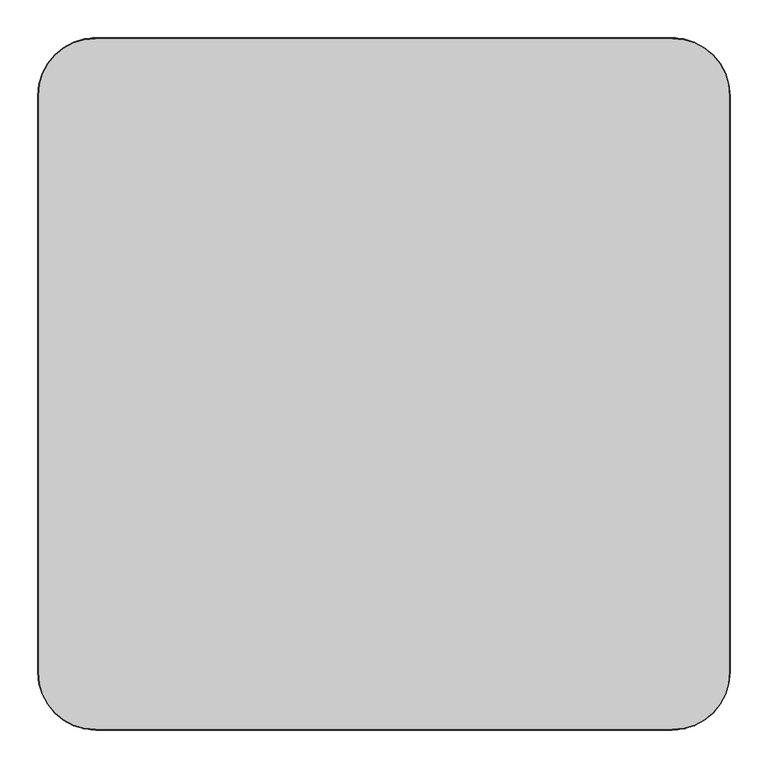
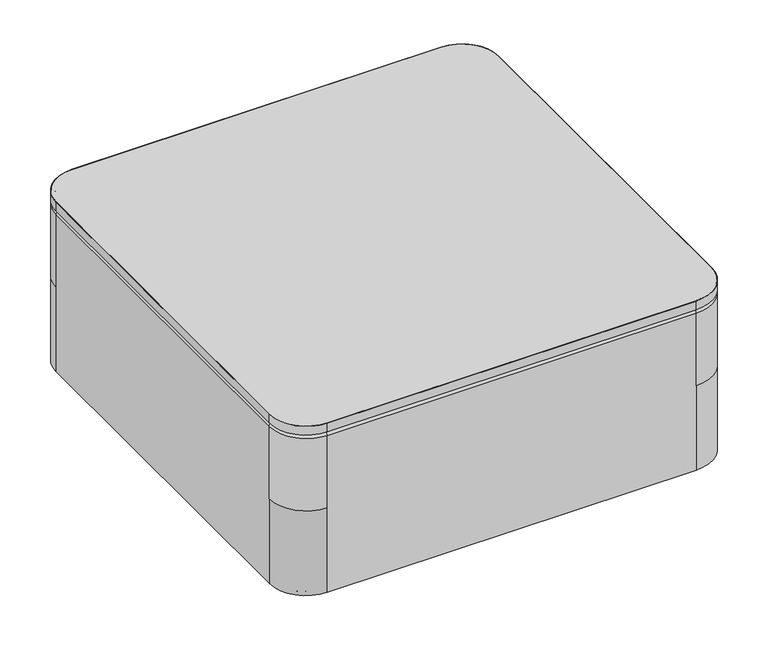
"""IFC4 building model written with IfcOpenShell, lengths in millimetres: furniture geometry, Indiana-Otty-Ottoman_Square_Table : 840-3615SOT."""

from ifc_helpers import new_model, si_unit, point, frame, frame_2d, origin, place, context, project, spatial, polyline, circle_curve, ellipse_curve, trimmed, segment, composite_curve, outline, extrude, source, transform, mapped, element, save
from ifc_brep_helpers import plane_surface, cylinder_surface, revolved_surface, advanced_brep


def furniture_1430fbfa(model_context):
    return source(origin(), model_context, "Body", "SolidModel", [
        extrude(outline(composite_curve([segment(trimmed(circle_curve(frame_2d((381.0, 381.0)), 75.2078125), [point((381.0, 456.2078125))], [point((456.2078125, 381.0))], False, "CARTESIAN"), True, "CONTINUOUS"), segment(polyline([(456.2078125, 381.0), (456.2078125, -381.0)]), True, "CONTINUOUS"), segment(trimmed(circle_curve(frame_2d((381.0, -381.0)), 75.2078125), [point((456.2078125, -381.0))], [point((381.0, -456.2078125))], False, "CARTESIAN"), True, "CONTINUOUS"), segment(polyline([(381.0, -456.2078125), (-381.0, -456.2078125)]), True, "CONTINUOUS"), segment(trimmed(circle_curve(frame_2d((-381.0, -381.0)), 75.2078125), [point((-381.0, -456.2078125))], [point((-456.2078125, -381.0))], False, "CARTESIAN"), True, "CONTINUOUS"), segment(polyline([(-456.2078125, -381.0), (-456.2078125, 381.0)]), True, "CONTINUOUS"), segment(trimmed(circle_curve(frame_2d((-381.0, 381.0)), 75.2078125), [point((-456.2078125, 381.0))], [point((-381.0, 456.2078125))], False, "CARTESIAN"), True, "CONTINUOUS"), segment(polyline([(-381.0, 456.2078125), (381.0, 456.2078125)]), True, "CONTINUOUS")], self_intersect=False)), frame((0.0, 0.0, 361.95), z_axis=(0.0, 0.0, 1.0), x_axis=(1.0, 0.0, 0.0)), (0.0, 0.0, 1.0), 19.05),
        extrude(outline(composite_curve([segment(polyline([(-457.2, -381.0), (-457.2, 381.0)]), True, "CONTINUOUS"), segment(trimmed(circle_curve(frame_2d((-381.0, 381.0)), 76.2), [point((-457.2, 381.0))], [point((-381.0, 457.2))], False, "CARTESIAN"), True, "CONTINUOUS"), segment(polyline([(-381.0, 457.2), (381.0, 457.2)]), True, "CONTINUOUS"), segment(trimmed(circle_curve(frame_2d((381.0, 381.0)), 76.2), [point((381.0, 457.2))], [point((457.2, 381.0))], False, "CARTESIAN"), True, "CONTINUOUS"), segment(polyline([(457.2, 381.0), (457.2, -381.0)]), True, "CONTINUOUS"), segment(trimmed(circle_curve(frame_2d((381.0, -381.0)), 76.2), [point((457.2, -381.0))], [point((381.0, -457.2))], False, "CARTESIAN"), True, "CONTINUOUS"), segment(polyline([(381.0, -457.2), (-381.0, -457.2)]), True, "CONTINUOUS"), segment(trimmed(circle_curve(frame_2d((-381.0, -381.0)), 76.2), [point((-381.0, -457.2))], [point((-457.2, -381.0))], False, "CARTESIAN"), True, "CONTINUOUS")], self_intersect=False), holes=[composite_curve([segment(polyline([(381.0, 456.2078125), (-381.0, 456.2078125)]), True, "CONTINUOUS"), segment(trimmed(circle_curve(frame_2d((-381.0, 381.0)), 75.2078125), [point((-381.0, 456.2078125))], [point((-456.2078125, 381.0))], True, "CARTESIAN"), True, "CONTINUOUS"), segment(polyline([(-456.2078125, 381.0), (-456.2078125, -381.0)]), True, "CONTINUOUS"), segment(trimmed(circle_curve(frame_2d((-381.0, -381.0)), 75.2078125), [point((-456.2078125, -381.0))], [point((-381.0, -456.2078125))], True, "CARTESIAN"), True, "CONTINUOUS"), segment(polyline([(-381.0, -456.2078125), (381.0, -456.2078125)]), True, "CONTINUOUS"), segment(trimmed(circle_curve(frame_2d((381.0, -381.0)), 75.2078125), [point((381.0, -456.2078125))], [point((456.2078125, -381.0))], True, "CARTESIAN"), True, "CONTINUOUS"), segment(polyline([(456.2078125, -381.0), (456.2078125, 381.0)]), True, "CONTINUOUS"), segment(trimmed(circle_curve(frame_2d((381.0, 381.0)), 75.2078125), [point((456.2078125, 381.0))], [point((381.0, 456.2078125))], True, "CARTESIAN"), True, "CONTINUOUS")], self_intersect=False)]), frame((0.0, 0.0, 361.95), z_axis=(0.0, 0.0, 1.0), x_axis=(1.0, 0.0, 0.0)), (0.0, 0.0, 1.0), 19.05),
        advanced_brep(
        [(0.0, -403.225, 19.8875), (0.0, -425.725, 19.8875), (0.0, -380.725, 19.8875), (0.0, -425.2765082, 4.2458827), (0.0, -381.1734918, 4.2458827), (0.0, -420.7913665, -0.1125), (0.0, -385.6586335, -0.1125), (0.0, -413.4926178, -0.1125), (0.0, -392.9573822, -0.1125), (0.0, -409.5981417, 3.9179615), (0.0, -396.8518583, 3.9179615), (0.0, -403.225, 3.9179615)],
        [
            (0, 1),
            (1, 2, circle_curve(frame((0.0, -403.225, 19.8875), z_axis=(0.0, 0.0, 1.0), x_axis=(0.0, -1.0, 0.0)), 22.5)),
            (2, 0),
            (2, 1, circle_curve(frame((0.0, -403.225, 19.8875), z_axis=(0.0, 0.0, 1.0), x_axis=(0.0, -1.0, 0.0)), 22.5)),
            (1, 3),
            (3, 4, circle_curve(frame((0.0, -403.225, 4.2458827), z_axis=(0.0, 0.0, 1.0), x_axis=(0.0, -1.0, 0.0)), 22.0515082)),
            (4, 2),
            (4, 3, circle_curve(frame((0.0, -403.225, 4.2458827), z_axis=(0.0, 0.0, 1.0), x_axis=(0.0, -1.0, 0.0)), 22.0515082)),
            (3, 5, circle_curve(frame((0.0, -420.7913665, 4.3744851), z_axis=(1.0, 0.0, 0.0), x_axis=(0.0, 1.0, 0.0)), 4.4869851)),
            (5, 6, circle_curve(frame((0.0, -403.225, -0.1125), z_axis=(0.0, 0.0, 1.0), x_axis=(0.0, -1.0, 0.0)), 17.5663665)),
            (6, 4, circle_curve(frame((0.0, -385.6586335, 4.3744851), z_axis=(1.0, 0.0, 0.0), x_axis=(0.0, -1.0, 0.0)), 4.4869851)),
            (6, 5, circle_curve(frame((0.0, -403.225, -0.1125), z_axis=(0.0, 0.0, 1.0), x_axis=(0.0, -1.0, 0.0)), 17.5663665)),
            (5, 7),
            (7, 8, circle_curve(frame((0.0, -403.225, -0.1125), z_axis=(0.0, 0.0, 1.0), x_axis=(0.0, -1.0, 0.0)), 10.2676178)),
            (8, 6),
            (8, 7, circle_curve(frame((0.0, -403.225, -0.1125), z_axis=(0.0, 0.0, 1.0), x_axis=(0.0, -1.0, 0.0)), 10.2676178)),
            (7, 9, circle_curve(frame((0.0, -413.4926178, 3.7842702), z_axis=(1.0, 0.0, 0.0), x_axis=(0.0, 1.0, 0.0)), 3.8967702)),
            (9, 10, circle_curve(frame((0.0, -403.225, 3.9179615), z_axis=(0.0, 0.0, 1.0), x_axis=(0.0, -1.0, 0.0)), 6.3731417)),
            (10, 8, circle_curve(frame((0.0, -392.9573822, 3.7842702), z_axis=(1.0, 0.0, 0.0), x_axis=(0.0, -1.0, 0.0)), 3.8967702)),
            (10, 9, circle_curve(frame((0.0, -403.225, 3.9179615), z_axis=(0.0, 0.0, 1.0), x_axis=(0.0, -1.0, 0.0)), 6.3731417)),
            (9, 11),
            (11, 10),
        ],
        [
            plane_surface(frame((0.0, -403.225, 19.8875), z_axis=(0.0, 0.0, 1.0), x_axis=(0.0, -1.0, 0.0))),
            revolved_surface(polyline([(0.0, -425.2765082, 4.2458827), (0.0, -425.725, 19.8875)]), (0.0, -403.225, 31.0803862), (0.0, 0.0, 1.0)),
            revolved_surface(trimmed(ellipse_curve(frame((0.0, -420.7913665, 4.3744851), z_axis=(-1.0, 0.0, 0.0), x_axis=(0.0, 1.0, 0.0)), 4.4869851, 4.4869851), [point((0.0, -420.7913665, -0.1125))], [point((0.0, -425.2765082, 4.2458827))], True, "CARTESIAN"), (0.0, -403.225, 31.0803862), (0.0, 0.0, 1.0)),
            plane_surface(frame((0.0, -403.225, -0.1125), z_axis=(0.0, 0.0, -1.0), x_axis=(0.0, -1.0, 0.0))),
            revolved_surface(trimmed(ellipse_curve(frame((0.0, -413.4926178, 3.7842702), z_axis=(-1.0, 0.0, 0.0), x_axis=(0.0, 1.0, 0.0)), 3.8967702, 3.8967702), [point((0.0, -409.5981417, 3.9179615))], [point((0.0, -413.4926178, -0.1125))], True, "CARTESIAN"), (0.0, -403.225, 31.0803862), (0.0, 0.0, 1.0)),
            plane_surface(frame((0.0, -403.225, 3.9179615), z_axis=(0.0, 0.0, -1.0), x_axis=(0.0, -1.0, 0.0))),
        ],
        [
            (0, [[1, 2, 3]]),
            (0, [[-3, 4, -1]]),
            (1, [[-2, 5, 6, 7]]),
            (1, [[-4, -7, 8, -5]]),
            (2, [[-6, 9, 10, 11]]),
            (2, [[-8, -11, 12, -9]]),
            (3, [[-10, 13, 14, 15]]),
            (3, [[-12, -15, 16, -13]]),
            (4, [[-14, 17, 18, 19]]),
            (4, [[-16, -19, 20, -17]]),
            (5, [[-18, 21, 22]]),
            (5, [[-20, -22, -21]]),
        ],
    ),
        advanced_brep(
        [(0.0, 403.225, 19.8875), (0.0, 380.725, 19.8875), (0.0, 425.725, 19.8875), (0.0, 381.1734918, 4.2458827), (0.0, 425.2765082, 4.2458827), (0.0, 385.6586335, -0.1125), (0.0, 420.7913665, -0.1125), (0.0, 392.9573822, -0.1125), (0.0, 413.4926178, -0.1125), (0.0, 396.8518583, 3.9179615), (0.0, 409.5981417, 3.9179615), (0.0, 403.225, 3.9179615)],
        [
            (0, 1),
            (1, 2, circle_curve(frame((0.0, 403.225, 19.8875), z_axis=(0.0, 0.0, 1.0), x_axis=(0.0, -1.0, 0.0)), 22.5)),
            (2, 0),
            (2, 1, circle_curve(frame((0.0, 403.225, 19.8875), z_axis=(0.0, 0.0, 1.0), x_axis=(0.0, -1.0, 0.0)), 22.5)),
            (1, 3),
            (3, 4, circle_curve(frame((0.0, 403.225, 4.2458827), z_axis=(0.0, 0.0, 1.0), x_axis=(0.0, -1.0, 0.0)), 22.0515082)),
            (4, 2),
            (4, 3, circle_curve(frame((0.0, 403.225, 4.2458827), z_axis=(0.0, 0.0, 1.0), x_axis=(0.0, -1.0, 0.0)), 22.0515082)),
            (3, 5, circle_curve(frame((0.0, 385.6586335, 4.3744851), z_axis=(1.0, 0.0, 0.0), x_axis=(0.0, 1.0, 0.0)), 4.4869851)),
            (5, 6, circle_curve(frame((0.0, 403.225, -0.1125), z_axis=(0.0, 0.0, 1.0), x_axis=(0.0, -1.0, 0.0)), 17.5663665)),
            (6, 4, circle_curve(frame((0.0, 420.7913665, 4.3744851), z_axis=(1.0, 0.0, 0.0), x_axis=(0.0, -1.0, 0.0)), 4.4869851)),
            (6, 5, circle_curve(frame((0.0, 403.225, -0.1125), z_axis=(0.0, 0.0, 1.0), x_axis=(0.0, -1.0, 0.0)), 17.5663665)),
            (5, 7),
            (7, 8, circle_curve(frame((0.0, 403.225, -0.1125), z_axis=(0.0, 0.0, 1.0), x_axis=(0.0, -1.0, 0.0)), 10.2676178)),
            (8, 6),
            (8, 7, circle_curve(frame((0.0, 403.225, -0.1125), z_axis=(0.0, 0.0, 1.0), x_axis=(0.0, -1.0, 0.0)), 10.2676178)),
            (7, 9, circle_curve(frame((0.0, 392.9573822, 3.7842702), z_axis=(1.0, 0.0, 0.0), x_axis=(0.0, 1.0, 0.0)), 3.8967702)),
            (9, 10, circle_curve(frame((0.0, 403.225, 3.9179615), z_axis=(0.0, 0.0, 1.0), x_axis=(0.0, -1.0, 0.0)), 6.3731417)),
            (10, 8, circle_curve(frame((0.0, 413.4926178, 3.7842702), z_axis=(1.0, 0.0, 0.0), x_axis=(0.0, -1.0, 0.0)), 3.8967702)),
            (10, 9, circle_curve(frame((0.0, 403.225, 3.9179615), z_axis=(0.0, 0.0, 1.0), x_axis=(0.0, -1.0, 0.0)), 6.3731417)),
            (9, 11),
            (11, 10),
        ],
        [
            plane_surface(frame((0.0, 403.225, 19.8875), z_axis=(0.0, 0.0, 1.0), x_axis=(0.0, -1.0, 0.0))),
            revolved_surface(polyline([(0.0, 381.1734918, 4.2458827), (0.0, 380.725, 19.8875)]), (0.0, 403.225, 31.0803862), (0.0, 0.0, 1.0)),
            revolved_surface(trimmed(ellipse_curve(frame((0.0, 385.6586335, 4.3744851), z_axis=(-1.0, 0.0, 0.0), x_axis=(0.0, 1.0, 0.0)), 4.4869851, 4.4869851), [point((0.0, 385.6586335, -0.1125))], [point((0.0, 381.1734918, 4.2458827))], True, "CARTESIAN"), (0.0, 403.225, 31.0803862), (0.0, 0.0, 1.0)),
            plane_surface(frame((0.0, 403.225, -0.1125), z_axis=(0.0, 0.0, -1.0), x_axis=(0.0, -1.0, 0.0))),
            revolved_surface(trimmed(ellipse_curve(frame((0.0, 392.9573822, 3.7842702), z_axis=(-1.0, 0.0, 0.0), x_axis=(0.0, 1.0, 0.0)), 3.8967702, 3.8967702), [point((0.0, 396.8518583, 3.9179615))], [point((0.0, 392.9573822, -0.1125))], True, "CARTESIAN"), (0.0, 403.225, 31.0803862), (0.0, 0.0, 1.0)),
            plane_surface(frame((0.0, 403.225, 3.9179615), z_axis=(0.0, 0.0, -1.0), x_axis=(0.0, -1.0, 0.0))),
        ],
        [
            (0, [[1, 2, 3]]),
            (0, [[-3, 4, -1]]),
            (1, [[-2, 5, 6, 7]]),
            (1, [[-4, -7, 8, -5]]),
            (2, [[-6, 9, 10, 11]]),
            (2, [[-8, -11, 12, -9]]),
            (3, [[-10, 13, 14, 15]]),
            (3, [[-12, -15, 16, -13]]),
            (4, [[-14, 17, 18, 19]]),
            (4, [[-16, -19, 20, -17]]),
            (5, [[-18, 21, 22]]),
            (5, [[-20, -22, -21]]),
        ],
    ),
        advanced_brep(
        [(403.225, -403.225, 19.8875), (403.225, -425.725, 19.8875), (403.225, -380.725, 19.8875), (403.225, -425.2765082, 4.2458827), (403.225, -381.1734918, 4.2458827), (403.225, -420.7913665, -0.1125), (403.225, -385.6586335, -0.1125), (403.225, -413.4926178, -0.1125), (403.225, -392.9573822, -0.1125), (403.225, -409.5981417, 3.9179615), (403.225, -396.8518583, 3.9179615), (403.225, -403.225, 3.9179615)],
        [
            (0, 1),
            (1, 2, circle_curve(frame((403.225, -403.225, 19.8875), z_axis=(0.0, 0.0, 1.0), x_axis=(0.0, -1.0, 0.0)), 22.5)),
            (2, 0),
            (2, 1, circle_curve(frame((403.225, -403.225, 19.8875), z_axis=(0.0, 0.0, 1.0), x_axis=(0.0, -1.0, 0.0)), 22.5)),
            (1, 3),
            (3, 4, circle_curve(frame((403.225, -403.225, 4.2458827), z_axis=(0.0, 0.0, 1.0), x_axis=(0.0, -1.0, 0.0)), 22.0515082)),
            (4, 2),
            (4, 3, circle_curve(frame((403.225, -403.225, 4.2458827), z_axis=(0.0, 0.0, 1.0), x_axis=(0.0, -1.0, 0.0)), 22.0515082)),
            (3, 5, circle_curve(frame((403.225, -420.7913665, 4.3744851), z_axis=(1.0, 0.0, 0.0), x_axis=(0.0, 1.0, 0.0)), 4.4869851)),
            (5, 6, circle_curve(frame((403.225, -403.225, -0.1125), z_axis=(0.0, 0.0, 1.0), x_axis=(0.0, -1.0, 0.0)), 17.5663665)),
            (6, 4, circle_curve(frame((403.225, -385.6586335, 4.3744851), z_axis=(1.0, 0.0, 0.0), x_axis=(0.0, -1.0, 0.0)), 4.4869851)),
            (6, 5, circle_curve(frame((403.225, -403.225, -0.1125), z_axis=(0.0, 0.0, 1.0), x_axis=(0.0, -1.0, 0.0)), 17.5663665)),
            (5, 7),
            (7, 8, circle_curve(frame((403.225, -403.225, -0.1125), z_axis=(0.0, 0.0, 1.0), x_axis=(0.0, -1.0, 0.0)), 10.2676178)),
            (8, 6),
            (8, 7, circle_curve(frame((403.225, -403.225, -0.1125), z_axis=(0.0, 0.0, 1.0), x_axis=(0.0, -1.0, 0.0)), 10.2676178)),
            (7, 9, circle_curve(frame((403.225, -413.4926178, 3.7842702), z_axis=(1.0, 0.0, 0.0), x_axis=(0.0, 1.0, 0.0)), 3.8967702)),
            (9, 10, circle_curve(frame((403.225, -403.225, 3.9179615), z_axis=(0.0, 0.0, 1.0), x_axis=(0.0, -1.0, 0.0)), 6.3731417)),
            (10, 8, circle_curve(frame((403.225, -392.9573822, 3.7842702), z_axis=(1.0, 0.0, 0.0), x_axis=(0.0, -1.0, 0.0)), 3.8967702)),
            (10, 9, circle_curve(frame((403.225, -403.225, 3.9179615), z_axis=(0.0, 0.0, 1.0), x_axis=(0.0, -1.0, 0.0)), 6.3731417)),
            (9, 11),
            (11, 10),
        ],
        [
            plane_surface(frame((403.225, -403.225, 19.8875), z_axis=(0.0, 0.0, 1.0), x_axis=(0.0, -1.0, 0.0))),
            revolved_surface(polyline([(403.225, -425.2765082, 4.2458827), (403.225, -425.725, 19.8875)]), (403.225, -403.225, 31.0803862), (0.0, 0.0, 1.0)),
            revolved_surface(trimmed(ellipse_curve(frame((403.225, -420.7913665, 4.3744851), z_axis=(-1.0, 0.0, 0.0), x_axis=(0.0, 1.0, 0.0)), 4.4869851, 4.4869851), [point((403.225, -420.7913665, -0.1125))], [point((403.225, -425.2765082, 4.2458827))], True, "CARTESIAN"), (403.225, -403.225, 31.0803862), (0.0, 0.0, 1.0)),
            plane_surface(frame((403.225, -403.225, -0.1125), z_axis=(0.0, 0.0, -1.0), x_axis=(0.0, -1.0, 0.0))),
            revolved_surface(trimmed(ellipse_curve(frame((403.225, -413.4926178, 3.7842702), z_axis=(-1.0, 0.0, 0.0), x_axis=(0.0, 1.0, 0.0)), 3.8967702, 3.8967702), [point((403.225, -409.5981417, 3.9179615))], [point((403.225, -413.4926178, -0.1125))], True, "CARTESIAN"), (403.225, -403.225, 31.0803862), (0.0, 0.0, 1.0)),
            plane_surface(frame((403.225, -403.225, 3.9179615), z_axis=(0.0, 0.0, -1.0), x_axis=(0.0, -1.0, 0.0))),
        ],
        [
            (0, [[1, 2, 3]]),
            (0, [[-3, 4, -1]]),
            (1, [[-2, 5, 6, 7]]),
            (1, [[-4, -7, 8, -5]]),
            (2, [[-6, 9, 10, 11]]),
            (2, [[-8, -11, 12, -9]]),
            (3, [[-10, 13, 14, 15]]),
            (3, [[-12, -15, 16, -13]]),
            (4, [[-14, 17, 18, 19]]),
            (4, [[-16, -19, 20, -17]]),
            (5, [[-18, 21, 22]]),
            (5, [[-20, -22, -21]]),
        ],
    ),
        advanced_brep(
        [(403.225, 403.225, 19.8875), (403.225, 380.725, 19.8875), (403.225, 425.725, 19.8875), (403.225, 381.1734918, 4.2458827), (403.225, 425.2765082, 4.2458827), (403.225, 385.6586335, -0.1125), (403.225, 420.7913665, -0.1125), (403.225, 392.9573822, -0.1125), (403.225, 413.4926178, -0.1125), (403.225, 396.8518583, 3.9179615), (403.225, 409.5981417, 3.9179615), (403.225, 403.225, 3.9179615)],
        [
            (0, 1),
            (1, 2, circle_curve(frame((403.225, 403.225, 19.8875), z_axis=(0.0, 0.0, 1.0), x_axis=(0.0, -1.0, 0.0)), 22.5)),
            (2, 0),
            (2, 1, circle_curve(frame((403.225, 403.225, 19.8875), z_axis=(0.0, 0.0, 1.0), x_axis=(0.0, -1.0, 0.0)), 22.5)),
            (1, 3),
            (3, 4, circle_curve(frame((403.225, 403.225, 4.2458827), z_axis=(0.0, 0.0, 1.0), x_axis=(0.0, -1.0, 0.0)), 22.0515082)),
            (4, 2),
            (4, 3, circle_curve(frame((403.225, 403.225, 4.2458827), z_axis=(0.0, 0.0, 1.0), x_axis=(0.0, -1.0, 0.0)), 22.0515082)),
            (3, 5, circle_curve(frame((403.225, 385.6586335, 4.3744851), z_axis=(1.0, 0.0, 0.0), x_axis=(0.0, 1.0, 0.0)), 4.4869851)),
            (5, 6, circle_curve(frame((403.225, 403.225, -0.1125), z_axis=(0.0, 0.0, 1.0), x_axis=(0.0, -1.0, 0.0)), 17.5663665)),
            (6, 4, circle_curve(frame((403.225, 420.7913665, 4.3744851), z_axis=(1.0, 0.0, 0.0), x_axis=(0.0, -1.0, 0.0)), 4.4869851)),
            (6, 5, circle_curve(frame((403.225, 403.225, -0.1125), z_axis=(0.0, 0.0, 1.0), x_axis=(0.0, -1.0, 0.0)), 17.5663665)),
            (5, 7),
            (7, 8, circle_curve(frame((403.225, 403.225, -0.1125), z_axis=(0.0, 0.0, 1.0), x_axis=(0.0, -1.0, 0.0)), 10.2676178)),
            (8, 6),
            (8, 7, circle_curve(frame((403.225, 403.225, -0.1125), z_axis=(0.0, 0.0, 1.0), x_axis=(0.0, -1.0, 0.0)), 10.2676178)),
            (7, 9, circle_curve(frame((403.225, 392.9573822, 3.7842702), z_axis=(1.0, 0.0, 0.0), x_axis=(0.0, 1.0, 0.0)), 3.8967702)),
            (9, 10, circle_curve(frame((403.225, 403.225, 3.9179615), z_axis=(0.0, 0.0, 1.0), x_axis=(0.0, -1.0, 0.0)), 6.3731417)),
            (10, 8, circle_curve(frame((403.225, 413.4926178, 3.7842702), z_axis=(1.0, 0.0, 0.0), x_axis=(0.0, -1.0, 0.0)), 3.8967702)),
            (10, 9, circle_curve(frame((403.225, 403.225, 3.9179615), z_axis=(0.0, 0.0, 1.0), x_axis=(0.0, -1.0, 0.0)), 6.3731417)),
            (9, 11),
            (11, 10),
        ],
        [
            plane_surface(frame((403.225, 403.225, 19.8875), z_axis=(0.0, 0.0, 1.0), x_axis=(0.0, -1.0, 0.0))),
            revolved_surface(polyline([(403.225, 381.1734918, 4.2458827), (403.225, 380.725, 19.8875)]), (403.225, 403.225, 31.0803862), (0.0, 0.0, 1.0)),
            revolved_surface(trimmed(ellipse_curve(frame((403.225, 385.6586335, 4.3744851), z_axis=(-1.0, 0.0, 0.0), x_axis=(0.0, 1.0, 0.0)), 4.4869851, 4.4869851), [point((403.225, 385.6586335, -0.1125))], [point((403.225, 381.1734918, 4.2458827))], True, "CARTESIAN"), (403.225, 403.225, 31.0803862), (0.0, 0.0, 1.0)),
            plane_surface(frame((403.225, 403.225, -0.1125), z_axis=(0.0, 0.0, -1.0), x_axis=(0.0, -1.0, 0.0))),
            revolved_surface(trimmed(ellipse_curve(frame((403.225, 392.9573822, 3.7842702), z_axis=(-1.0, 0.0, 0.0), x_axis=(0.0, 1.0, 0.0)), 3.8967702, 3.8967702), [point((403.225, 396.8518583, 3.9179615))], [point((403.225, 392.9573822, -0.1125))], True, "CARTESIAN"), (403.225, 403.225, 31.0803862), (0.0, 0.0, 1.0)),
            plane_surface(frame((403.225, 403.225, 3.9179615), z_axis=(0.0, 0.0, -1.0), x_axis=(0.0, -1.0, 0.0))),
        ],
        [
            (0, [[1, 2, 3]]),
            (0, [[-3, 4, -1]]),
            (1, [[-2, 5, 6, 7]]),
            (1, [[-4, -7, 8, -5]]),
            (2, [[-6, 9, 10, 11]]),
            (2, [[-8, -11, 12, -9]]),
            (3, [[-10, 13, 14, 15]]),
            (3, [[-12, -15, 16, -13]]),
            (4, [[-14, 17, 18, 19]]),
            (4, [[-16, -19, 20, -17]]),
            (5, [[-18, 21, 22]]),
            (5, [[-20, -22, -21]]),
        ],
    ),
        advanced_brep(
        [(-403.225, -403.225, 19.8875), (-403.225, -425.725, 19.8875), (-403.225, -380.725, 19.8875), (-403.225, -425.2765082, 4.2458827), (-403.225, -381.1734918, 4.2458827), (-403.225, -420.7913665, -0.1125), (-403.225, -385.6586335, -0.1125), (-403.225, -413.4926178, -0.1125), (-403.225, -392.9573822, -0.1125), (-403.225, -409.5981417, 3.9179615), (-403.225, -396.8518583, 3.9179615), (-403.225, -403.225, 3.9179615)],
        [
            (0, 1),
            (1, 2, circle_curve(frame((-403.225, -403.225, 19.8875), z_axis=(0.0, 0.0, 1.0), x_axis=(0.0, -1.0, 0.0)), 22.5)),
            (2, 0),
            (2, 1, circle_curve(frame((-403.225, -403.225, 19.8875), z_axis=(0.0, 0.0, 1.0), x_axis=(0.0, -1.0, 0.0)), 22.5)),
            (1, 3),
            (3, 4, circle_curve(frame((-403.225, -403.225, 4.2458827), z_axis=(0.0, 0.0, 1.0), x_axis=(0.0, -1.0, 0.0)), 22.0515082)),
            (4, 2),
            (4, 3, circle_curve(frame((-403.225, -403.225, 4.2458827), z_axis=(0.0, 0.0, 1.0), x_axis=(0.0, -1.0, 0.0)), 22.0515082)),
            (3, 5, circle_curve(frame((-403.225, -420.7913665, 4.3744851), z_axis=(1.0, 0.0, 0.0), x_axis=(0.0, 1.0, 0.0)), 4.4869851)),
            (5, 6, circle_curve(frame((-403.225, -403.225, -0.1125), z_axis=(0.0, 0.0, 1.0), x_axis=(0.0, -1.0, 0.0)), 17.5663665)),
            (6, 4, circle_curve(frame((-403.225, -385.6586335, 4.3744851), z_axis=(1.0, 0.0, 0.0), x_axis=(0.0, -1.0, 0.0)), 4.4869851)),
            (6, 5, circle_curve(frame((-403.225, -403.225, -0.1125), z_axis=(0.0, 0.0, 1.0), x_axis=(0.0, -1.0, 0.0)), 17.5663665)),
            (5, 7),
            (7, 8, circle_curve(frame((-403.225, -403.225, -0.1125), z_axis=(0.0, 0.0, 1.0), x_axis=(0.0, -1.0, 0.0)), 10.2676178)),
            (8, 6),
            (8, 7, circle_curve(frame((-403.225, -403.225, -0.1125), z_axis=(0.0, 0.0, 1.0), x_axis=(0.0, -1.0, 0.0)), 10.2676178)),
            (7, 9, circle_curve(frame((-403.225, -413.4926178, 3.7842702), z_axis=(1.0, 0.0, 0.0), x_axis=(0.0, 1.0, 0.0)), 3.8967702)),
            (9, 10, circle_curve(frame((-403.225, -403.225, 3.9179615), z_axis=(0.0, 0.0, 1.0), x_axis=(0.0, -1.0, 0.0)), 6.3731417)),
            (10, 8, circle_curve(frame((-403.225, -392.9573822, 3.7842702), z_axis=(1.0, 0.0, 0.0), x_axis=(0.0, -1.0, 0.0)), 3.8967702)),
            (10, 9, circle_curve(frame((-403.225, -403.225, 3.9179615), z_axis=(0.0, 0.0, 1.0), x_axis=(0.0, -1.0, 0.0)), 6.3731417)),
            (9, 11),
            (11, 10),
        ],
        [
            plane_surface(frame((-403.225, -403.225, 19.8875), z_axis=(0.0, 0.0, 1.0), x_axis=(0.0, -1.0, 0.0))),
            revolved_surface(polyline([(-403.225, -425.2765082, 4.2458827), (-403.225, -425.725, 19.8875)]), (-403.225, -403.225, 31.0803862), (0.0, 0.0, 1.0)),
            revolved_surface(trimmed(ellipse_curve(frame((-403.225, -420.7913665, 4.3744851), z_axis=(-1.0, 0.0, 0.0), x_axis=(0.0, 1.0, 0.0)), 4.4869851, 4.4869851), [point((-403.225, -420.7913665, -0.1125))], [point((-403.225, -425.2765082, 4.2458827))], True, "CARTESIAN"), (-403.225, -403.225, 31.0803862), (0.0, 0.0, 1.0)),
            plane_surface(frame((-403.225, -403.225, -0.1125), z_axis=(0.0, 0.0, -1.0), x_axis=(0.0, -1.0, 0.0))),
            revolved_surface(trimmed(ellipse_curve(frame((-403.225, -413.4926178, 3.7842702), z_axis=(-1.0, 0.0, 0.0), x_axis=(0.0, 1.0, 0.0)), 3.8967702, 3.8967702), [point((-403.225, -409.5981417, 3.9179615))], [point((-403.225, -413.4926178, -0.1125))], True, "CARTESIAN"), (-403.225, -403.225, 31.0803862), (0.0, 0.0, 1.0)),
            plane_surface(frame((-403.225, -403.225, 3.9179615), z_axis=(0.0, 0.0, -1.0), x_axis=(0.0, -1.0, 0.0))),
        ],
        [
            (0, [[1, 2, 3]]),
            (0, [[-3, 4, -1]]),
            (1, [[-2, 5, 6, 7]]),
            (1, [[-4, -7, 8, -5]]),
            (2, [[-6, 9, 10, 11]]),
            (2, [[-8, -11, 12, -9]]),
            (3, [[-10, 13, 14, 15]]),
            (3, [[-12, -15, 16, -13]]),
            (4, [[-14, 17, 18, 19]]),
            (4, [[-16, -19, 20, -17]]),
            (5, [[-18, 21, 22]]),
            (5, [[-20, -22, -21]]),
        ],
    ),
        advanced_brep(
        [(-403.225, 403.225, 19.8875), (-403.225, 380.725, 19.8875), (-403.225, 425.725, 19.8875), (-403.225, 381.1734918, 4.2458827), (-403.225, 425.2765082, 4.2458827), (-403.225, 385.6586335, -0.1125), (-403.225, 420.7913665, -0.1125), (-403.225, 392.9573822, -0.1125), (-403.225, 413.4926178, -0.1125), (-403.225, 396.8518583, 3.9179615), (-403.225, 409.5981417, 3.9179615), (-403.225, 403.225, 3.9179615)],
        [
            (0, 1),
            (1, 2, circle_curve(frame((-403.225, 403.225, 19.8875), z_axis=(0.0, 0.0, 1.0), x_axis=(0.0, -1.0, 0.0)), 22.5)),
            (2, 0),
            (2, 1, circle_curve(frame((-403.225, 403.225, 19.8875), z_axis=(0.0, 0.0, 1.0), x_axis=(0.0, -1.0, 0.0)), 22.5)),
            (1, 3),
            (3, 4, circle_curve(frame((-403.225, 403.225, 4.2458827), z_axis=(0.0, 0.0, 1.0), x_axis=(0.0, -1.0, 0.0)), 22.0515082)),
            (4, 2),
            (4, 3, circle_curve(frame((-403.225, 403.225, 4.2458827), z_axis=(0.0, 0.0, 1.0), x_axis=(0.0, -1.0, 0.0)), 22.0515082)),
            (3, 5, circle_curve(frame((-403.225, 385.6586335, 4.3744851), z_axis=(1.0, 0.0, 0.0), x_axis=(0.0, 1.0, 0.0)), 4.4869851)),
            (5, 6, circle_curve(frame((-403.225, 403.225, -0.1125), z_axis=(0.0, 0.0, 1.0), x_axis=(0.0, -1.0, 0.0)), 17.5663665)),
            (6, 4, circle_curve(frame((-403.225, 420.7913665, 4.3744851), z_axis=(1.0, 0.0, 0.0), x_axis=(0.0, -1.0, 0.0)), 4.4869851)),
            (6, 5, circle_curve(frame((-403.225, 403.225, -0.1125), z_axis=(0.0, 0.0, 1.0), x_axis=(0.0, -1.0, 0.0)), 17.5663665)),
            (5, 7),
            (7, 8, circle_curve(frame((-403.225, 403.225, -0.1125), z_axis=(0.0, 0.0, 1.0), x_axis=(0.0, -1.0, 0.0)), 10.2676178)),
            (8, 6),
            (8, 7, circle_curve(frame((-403.225, 403.225, -0.1125), z_axis=(0.0, 0.0, 1.0), x_axis=(0.0, -1.0, 0.0)), 10.2676178)),
            (7, 9, circle_curve(frame((-403.225, 392.9573822, 3.7842702), z_axis=(1.0, 0.0, 0.0), x_axis=(0.0, 1.0, 0.0)), 3.8967702)),
            (9, 10, circle_curve(frame((-403.225, 403.225, 3.9179615), z_axis=(0.0, 0.0, 1.0), x_axis=(0.0, -1.0, 0.0)), 6.3731417)),
            (10, 8, circle_curve(frame((-403.225, 413.4926178, 3.7842702), z_axis=(1.0, 0.0, 0.0), x_axis=(0.0, -1.0, 0.0)), 3.8967702)),
            (10, 9, circle_curve(frame((-403.225, 403.225, 3.9179615), z_axis=(0.0, 0.0, 1.0), x_axis=(0.0, -1.0, 0.0)), 6.3731417)),
            (9, 11),
            (11, 10),
        ],
        [
            plane_surface(frame((-403.225, 403.225, 19.8875), z_axis=(0.0, 0.0, 1.0), x_axis=(0.0, -1.0, 0.0))),
            revolved_surface(polyline([(-403.225, 381.1734918, 4.2458827), (-403.225, 380.725, 19.8875)]), (-403.225, 403.225, 31.0803862), (0.0, 0.0, 1.0)),
            revolved_surface(trimmed(ellipse_curve(frame((-403.225, 385.6586335, 4.3744851), z_axis=(-1.0, 0.0, 0.0), x_axis=(0.0, 1.0, 0.0)), 4.4869851, 4.4869851), [point((-403.225, 385.6586335, -0.1125))], [point((-403.225, 381.1734918, 4.2458827))], True, "CARTESIAN"), (-403.225, 403.225, 31.0803862), (0.0, 0.0, 1.0)),
            plane_surface(frame((-403.225, 403.225, -0.1125), z_axis=(0.0, 0.0, -1.0), x_axis=(0.0, -1.0, 0.0))),
            revolved_surface(trimmed(ellipse_curve(frame((-403.225, 392.9573822, 3.7842702), z_axis=(-1.0, 0.0, 0.0), x_axis=(0.0, 1.0, 0.0)), 3.8967702, 3.8967702), [point((-403.225, 396.8518583, 3.9179615))], [point((-403.225, 392.9573822, -0.1125))], True, "CARTESIAN"), (-403.225, 403.225, 31.0803862), (0.0, 0.0, 1.0)),
            plane_surface(frame((-403.225, 403.225, 3.9179615), z_axis=(0.0, 0.0, -1.0), x_axis=(0.0, -1.0, 0.0))),
        ],
        [
            (0, [[1, 2, 3]]),
            (0, [[-3, 4, -1]]),
            (1, [[-2, 5, 6, 7]]),
            (1, [[-4, -7, 8, -5]]),
            (2, [[-6, 9, 10, 11]]),
            (2, [[-8, -11, 12, -9]]),
            (3, [[-10, 13, 14, 15]]),
            (3, [[-12, -15, 16, -13]]),
            (4, [[-14, 17, 18, 19]]),
            (4, [[-16, -19, 20, -17]]),
            (5, [[-18, 21, 22]]),
            (5, [[-20, -22, -21]]),
        ],
    ),
        advanced_brep(
        [(381.0, 457.2, 196.25), (381.0, 457.2, 354.0043778), (457.2, 381.0, 354.0043778), (457.2, 381.0, 196.25), (457.2, -381.0, 354.0043778), (457.2, -381.0, 196.25), (457.2, -381.0, 11.5), (457.2, 381.0, 11.5), (381.0, -457.2, 354.0043778), (381.0, -457.2, 196.25), (-381.0, -457.2, 354.0043778), (-381.0, -457.2, 196.25), (-381.0, -457.2, 11.5), (381.0, -457.2, 11.5), (-457.2, -381.0, 354.0043778), (-457.2, -381.0, 196.25), (-457.2, 381.0, 354.0043778), (-457.2, 381.0, 196.25), (-457.2, 381.0, 11.5), (-457.2, -381.0, 11.5), (-381.0, 457.2, 354.0043778), (-381.0, 457.2, 196.25), (381.0, 449.2543778, 361.95), (-381.0, 449.2543778, 361.95), (-449.2543778, 381.0, 361.95), (-449.2543778, -381.0, 361.95), (-381.0, -449.2543778, 361.95), (381.0, -449.2543778, 361.95), (449.2543778, -381.0, 361.95), (449.2543778, 381.0, 361.95), (381.0, 457.2, 11.5), (-381.0, 457.2, 11.5), (-426.24375, -403.225, 11.5), (-380.20625, -403.225, 11.5), (-426.24375, 403.225, 11.5), (-380.20625, 403.225, 11.5), (380.20625, 403.225, 11.5), (426.24375, 403.225, 11.5), (380.20625, -403.225, 11.5), (426.24375, -403.225, 11.5), (-23.01875, 403.225, 11.5), (23.01875, 403.225, 11.5), (-23.01875, -403.225, 11.5), (23.01875, -403.225, 11.5), (-380.20625, -403.225, 19.834375), (-426.24375, -403.225, 19.834375), (-380.20625, 403.225, 19.834375), (-426.24375, 403.225, 19.834375), (380.20625, 403.225, 19.834375), (426.24375, 403.225, 19.834375), (380.20625, -403.225, 19.834375), (426.24375, -403.225, 19.834375), (-23.01875, 403.225, 19.834375), (23.01875, 403.225, 19.834375), (-23.01875, -403.225, 19.834375), (23.01875, -403.225, 19.834375)],
        [
            (0, 1),
            (1, 2, circle_curve(frame((381.0, 381.0, 354.0043778), z_axis=(0.0, 0.0, -1.0), x_axis=(0.0, 1.0, 0.0)), 76.2)),
            (2, 3),
            (3, 0, circle_curve(frame((381.0, 381.0, 196.25), z_axis=(0.0, 0.0, 1.0), x_axis=(0.0, 1.0, 0.0)), 76.2)),
            (2, 4),
            (4, 5),
            (5, 6),
            (6, 7),
            (7, 3),
            (4, 8, circle_curve(frame((381.0, -381.0, 354.0043778), z_axis=(0.0, 0.0, -1.0), x_axis=(1.0, 0.0, 0.0)), 76.2)),
            (8, 9),
            (9, 5, circle_curve(frame((381.0, -381.0, 196.25), z_axis=(0.0, 0.0, 1.0), x_axis=(1.0, 0.0, 0.0)), 76.2)),
            (8, 10),
            (10, 11),
            (11, 12),
            (12, 13),
            (13, 9),
            (10, 14, circle_curve(frame((-381.0, -381.0, 354.0043778), z_axis=(0.0, 0.0, -1.0), x_axis=(0.0, -1.0, 0.0)), 76.2)),
            (14, 15),
            (15, 11, circle_curve(frame((-381.0, -381.0, 196.25), z_axis=(0.0, 0.0, 1.0), x_axis=(0.0, -1.0, 0.0)), 76.2)),
            (14, 16),
            (16, 17),
            (17, 18),
            (18, 19),
            (19, 15),
            (16, 20, circle_curve(frame((-381.0, 381.0, 354.0043778), z_axis=(0.0, 0.0, -1.0), x_axis=(-1.0, 0.0, 0.0)), 76.2)),
            (20, 21),
            (21, 17, circle_curve(frame((-381.0, 381.0, 196.25), z_axis=(0.0, 0.0, 1.0), x_axis=(-1.0, 0.0, 0.0)), 76.2)),
            (22, 23),
            (23, 24, circle_curve(frame((-381.0, 381.0, 361.95), z_axis=(0.0, 0.0, 1.0), x_axis=(-1.0, 0.0, 0.0)), 68.2543778)),
            (24, 25),
            (25, 26, circle_curve(frame((-381.0, -381.0, 361.95), z_axis=(0.0, 0.0, 1.0), x_axis=(0.0, -1.0, 0.0)), 68.2543778)),
            (26, 27),
            (27, 28, circle_curve(frame((381.0, -381.0, 361.95), z_axis=(0.0, 0.0, 1.0), x_axis=(1.0, 0.0, 0.0)), 68.2543778)),
            (28, 29),
            (29, 22, circle_curve(frame((381.0, 381.0, 361.95), z_axis=(0.0, 0.0, 1.0), x_axis=(0.0, 1.0, 0.0)), 68.2543778)),
            (0, 30),
            (30, 31),
            (31, 21),
            (20, 1),
            (30, 7, circle_curve(frame((381.0, 381.0, 11.5), z_axis=(0.0, 0.0, -1.0), x_axis=(1.0, 0.0, 0.0)), 76.2)),
            (6, 13, circle_curve(frame((381.0, -381.0, 11.5), z_axis=(0.0, 0.0, -1.0), x_axis=(1.0, 0.0, 0.0)), 76.2)),
            (12, 19, circle_curve(frame((-381.0, -381.0, 11.5), z_axis=(0.0, 0.0, -1.0), x_axis=(1.0, 0.0, 0.0)), 76.2)),
            (18, 31, circle_curve(frame((-381.0, 381.0, 11.5), z_axis=(0.0, 0.0, -1.0), x_axis=(1.0, 0.0, 0.0)), 76.2)),
            (32, 33, circle_curve(frame((-403.225, -403.225, 11.5), z_axis=(0.0, 0.0, 1.0), x_axis=(-1.0, 0.0, 0.0)), 23.01875)),
            (33, 32, circle_curve(frame((-403.225, -403.225, 11.5), z_axis=(0.0, 0.0, 1.0), x_axis=(-1.0, 0.0, 0.0)), 23.01875)),
            (34, 35, circle_curve(frame((-403.225, 403.225, 11.5), z_axis=(0.0, 0.0, 1.0), x_axis=(-1.0, 0.0, 0.0)), 23.01875)),
            (35, 34, circle_curve(frame((-403.225, 403.225, 11.5), z_axis=(0.0, 0.0, 1.0), x_axis=(-1.0, 0.0, 0.0)), 23.01875)),
            (36, 37, circle_curve(frame((403.225, 403.225, 11.5), z_axis=(0.0, 0.0, 1.0), x_axis=(-1.0, 0.0, 0.0)), 23.01875)),
            (37, 36, circle_curve(frame((403.225, 403.225, 11.5), z_axis=(0.0, 0.0, 1.0), x_axis=(-1.0, 0.0, 0.0)), 23.01875)),
            (38, 39, circle_curve(frame((403.225, -403.225, 11.5), z_axis=(0.0, 0.0, 1.0), x_axis=(-1.0, 0.0, 0.0)), 23.01875)),
            (39, 38, circle_curve(frame((403.225, -403.225, 11.5), z_axis=(0.0, 0.0, 1.0), x_axis=(-1.0, 0.0, 0.0)), 23.01875)),
            (40, 41, circle_curve(frame((0.0, 403.225, 11.5), z_axis=(0.0, 0.0, 1.0), x_axis=(-1.0, 0.0, 0.0)), 23.01875)),
            (41, 40, circle_curve(frame((0.0, 403.225, 11.5), z_axis=(0.0, 0.0, 1.0), x_axis=(-1.0, 0.0, 0.0)), 23.01875)),
            (42, 43, circle_curve(frame((0.0, -403.225, 11.5), z_axis=(0.0, 0.0, 1.0), x_axis=(-1.0, 0.0, 0.0)), 23.01875)),
            (43, 42, circle_curve(frame((0.0, -403.225, 11.5), z_axis=(0.0, 0.0, 1.0), x_axis=(-1.0, 0.0, 0.0)), 23.01875)),
            (44, 45, circle_curve(frame((-403.225, -403.225, 19.834375), z_axis=(0.0, 0.0, -1.0), x_axis=(-1.0, 0.0, 0.0)), 23.01875)),
            (45, 44, circle_curve(frame((-403.225, -403.225, 19.834375), z_axis=(0.0, 0.0, -1.0), x_axis=(-1.0, 0.0, 0.0)), 23.01875)),
            (32, 45),
            (44, 33),
            (46, 47, circle_curve(frame((-403.225, 403.225, 19.834375), z_axis=(0.0, 0.0, -1.0), x_axis=(-1.0, 0.0, 0.0)), 23.01875)),
            (47, 46, circle_curve(frame((-403.225, 403.225, 19.834375), z_axis=(0.0, 0.0, -1.0), x_axis=(-1.0, 0.0, 0.0)), 23.01875)),
            (34, 47),
            (46, 35),
            (36, 48),
            (48, 49, circle_curve(frame((403.225, 403.225, 19.834375), z_axis=(0.0, 0.0, 1.0), x_axis=(-1.0, 0.0, 0.0)), 23.01875)),
            (49, 37),
            (49, 48, circle_curve(frame((403.225, 403.225, 19.834375), z_axis=(0.0, 0.0, 1.0), x_axis=(-1.0, 0.0, 0.0)), 23.01875)),
            (38, 50),
            (50, 51, circle_curve(frame((403.225, -403.225, 19.834375), z_axis=(0.0, 0.0, 1.0), x_axis=(-1.0, 0.0, 0.0)), 23.01875)),
            (51, 39),
            (51, 50, circle_curve(frame((403.225, -403.225, 19.834375), z_axis=(0.0, 0.0, 1.0), x_axis=(-1.0, 0.0, 0.0)), 23.01875)),
            (40, 52),
            (52, 53, circle_curve(frame((0.0, 403.225, 19.834375), z_axis=(0.0, 0.0, 1.0), x_axis=(-1.0, 0.0, 0.0)), 23.01875)),
            (53, 41),
            (53, 52, circle_curve(frame((0.0, 403.225, 19.834375), z_axis=(0.0, 0.0, 1.0), x_axis=(-1.0, 0.0, 0.0)), 23.01875)),
            (42, 54),
            (54, 55, circle_curve(frame((0.0, -403.225, 19.834375), z_axis=(0.0, 0.0, 1.0), x_axis=(-1.0, 0.0, 0.0)), 23.01875)),
            (55, 43),
            (55, 54, circle_curve(frame((0.0, -403.225, 19.834375), z_axis=(0.0, 0.0, 1.0), x_axis=(-1.0, 0.0, 0.0)), 23.01875)),
            (1, 22, circle_curve(frame((381.0, 449.2543778, 354.0043778), z_axis=(1.0, 0.0, 0.0), x_axis=(0.0, 1.0, 0.0)), 7.9456222)),
            (29, 2, circle_curve(frame((449.2543778, 381.0, 354.0043778), z_axis=(0.0, 1.0, 0.0), x_axis=(1.0, 0.0, 0.0)), 7.9456222)),
            (28, 4, circle_curve(frame((449.2543778, -381.0, 354.0043778), z_axis=(0.0, 1.0, 0.0), x_axis=(1.0, 0.0, 0.0)), 7.9456222)),
            (27, 8, circle_curve(frame((381.0, -449.2543778, 354.0043778), z_axis=(1.0, 0.0, 0.0), x_axis=(0.0, -1.0, 0.0)), 7.9456222)),
            (26, 10, circle_curve(frame((-381.0, -449.2543778, 354.0043778), z_axis=(1.0, 0.0, 0.0), x_axis=(0.0, -1.0, 0.0)), 7.9456222)),
            (25, 14, circle_curve(frame((-449.2543778, -381.0, 354.0043778), z_axis=(0.0, -1.0, 0.0), x_axis=(-1.0, 0.0, 0.0)), 7.9456222)),
            (24, 16, circle_curve(frame((-449.2543778, 381.0, 354.0043778), z_axis=(0.0, -1.0, 0.0), x_axis=(-1.0, 0.0, 0.0)), 7.9456222)),
            (23, 20, circle_curve(frame((-381.0, 449.2543778, 354.0043778), z_axis=(-1.0, 0.0, 0.0), x_axis=(0.0, 1.0, 0.0)), 7.9456222)),
        ],
        [
            cylinder_surface(frame((381.0, 381.0, 0.0), z_axis=(0.0, 0.0, -1.0), x_axis=(0.0, 1.0, 0.0)), 76.2),
            plane_surface(frame((457.2, 381.0, 354.0043778), z_axis=(1.0, 0.0, 0.0), x_axis=(0.0, -1.0, 0.0))),
            cylinder_surface(frame((381.0, -381.0, 0.0), z_axis=(0.0, 0.0, -1.0), x_axis=(1.0, 0.0, 0.0)), 76.2),
            plane_surface(frame((381.0, -457.2, 354.0043778), z_axis=(0.0, -1.0, 0.0), x_axis=(-1.0, 0.0, 0.0))),
            cylinder_surface(frame((-381.0, -381.0, 0.0), z_axis=(0.0, 0.0, -1.0), x_axis=(0.0, -1.0, 0.0)), 76.2),
            plane_surface(frame((-457.2, -381.0, 354.0043778), z_axis=(-1.0, 0.0, 0.0), x_axis=(0.0, 1.0, 0.0))),
            cylinder_surface(frame((-381.0, 381.0, 0.0), z_axis=(0.0, 0.0, -1.0), x_axis=(-1.0, 0.0, 0.0)), 76.2),
            plane_surface(frame((-381.0, 384.175, 361.95), z_axis=(0.0, 0.0, 1.0), x_axis=(1.0, 0.0, 0.0))),
            plane_surface(frame((-381.0, 457.2, 354.0043778), z_axis=(0.0, 1.0, 0.0), x_axis=(1.0, 0.0, 0.0))),
            plane_surface(frame((-381.0, 457.2, 11.5), z_axis=(0.0, 0.0, -1.0), x_axis=(1.0, 0.0, 0.0))),
            cylinder_surface(frame((-381.0, 381.0, 11.5), z_axis=(0.0, 0.0, 1.0), x_axis=(1.0, 0.0, 0.0)), 76.2),
            cylinder_surface(frame((-381.0, -381.0, 11.5), z_axis=(0.0, 0.0, 1.0), x_axis=(1.0, 0.0, 0.0)), 76.2),
            cylinder_surface(frame((381.0, -381.0, 11.5), z_axis=(0.0, 0.0, 1.0), x_axis=(1.0, 0.0, 0.0)), 76.2),
            cylinder_surface(frame((381.0, 381.0, 11.5), z_axis=(0.0, 0.0, 1.0), x_axis=(1.0, 0.0, 0.0)), 76.2),
            plane_surface(frame((-426.24375, -403.225, 19.834375), z_axis=(0.0, 0.0, -1.0), x_axis=(0.0, -1.0, 0.0))),
            revolved_surface(polyline([(-426.24375000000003, -403.225, 11.5), (-426.24375000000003, -403.225, 19.834375)]), (-403.225, -403.225, 19.834375), (0.0, 0.0, -1.0)),
            plane_surface(frame((-426.24375, 403.225, 19.834375), z_axis=(0.0, 0.0, -1.0), x_axis=(0.0, -1.0, 0.0))),
            revolved_surface(polyline([(-426.24375000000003, 403.225, 11.5), (-426.24375000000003, 403.225, 19.834375)]), (-403.225, 403.225, 19.834375), (0.0, 0.0, -1.0)),
            revolved_surface(polyline([(380.20625, 403.225, 11.5), (380.20625, 403.225, 19.834375)]), (403.225, 403.225, 19.834375), (0.0, 0.0, -1.0)),
            revolved_surface(polyline([(380.20625, -403.225, 11.5), (380.20625, -403.225, 19.834375)]), (403.225, -403.225, 19.834375), (0.0, 0.0, -1.0)),
            plane_surface(frame((380.20625, 403.225, 19.834375), z_axis=(0.0, 0.0, -1.0), x_axis=(0.0, -1.0, 0.0))),
            plane_surface(frame((380.20625, -403.225, 19.834375), z_axis=(0.0, 0.0, -1.0), x_axis=(0.0, -1.0, 0.0))),
            revolved_surface(polyline([(-23.01875, 403.225, 11.5), (-23.01875, 403.225, 19.834375)]), (0.0, 403.225, 19.834375), (0.0, 0.0, -1.0)),
            revolved_surface(polyline([(-23.01875, -403.225, 11.5), (-23.01875, -403.225, 19.834375)]), (0.0, -403.225, 19.834375), (0.0, 0.0, -1.0)),
            plane_surface(frame((-23.01875, -403.225, 19.834375), z_axis=(0.0, 0.0, -1.0), x_axis=(0.0, -1.0, 0.0))),
            plane_surface(frame((-23.01875, 403.225, 19.834375), z_axis=(0.0, 0.0, -1.0), x_axis=(0.0, -1.0, 0.0))),
            revolved_surface(trimmed(ellipse_curve(frame((381.0, 449.2543778, 354.0043778), z_axis=(-1.0, 0.0, 0.0), x_axis=(0.0, 1.0, 0.0)), 7.9456222, 7.9456222), [point((381.0, 449.2543778, 361.95))], [point((381.0, 457.2, 354.0043778))], True, "CARTESIAN"), (381.0, 381.0, 0.0), (0.0, 0.0, -1.0)),
            cylinder_surface(frame((449.2543778, 381.0, 354.0043778), z_axis=(0.0, 1.0, 0.0), x_axis=(1.0, 0.0, 0.0)), 7.9456222),
            revolved_surface(trimmed(ellipse_curve(frame((449.2543778, -381.0, 354.0043778), z_axis=(0.0, 1.0, 0.0), x_axis=(1.0, 0.0, 0.0)), 7.9456222, 7.9456222), [point((449.2543778, -381.0, 361.95))], [point((457.2, -381.0, 354.0043778))], True, "CARTESIAN"), (381.0, -381.0, 0.0), (0.0, 0.0, -1.0)),
            cylinder_surface(frame((381.0, -449.2543778, 354.0043778), z_axis=(1.0, 0.0, 0.0), x_axis=(0.0, -1.0, 0.0)), 7.9456222),
            revolved_surface(trimmed(ellipse_curve(frame((-381.0, -449.2543778, 354.0043778), z_axis=(1.0, 0.0, 0.0), x_axis=(0.0, -1.0, 0.0)), 7.9456222, 7.9456222), [point((-381.0, -449.2543778, 361.95))], [point((-381.0, -457.2, 354.0043778))], True, "CARTESIAN"), (-381.0, -381.0, 0.0), (0.0, 0.0, -1.0)),
            cylinder_surface(frame((-449.2543778, -381.0, 354.0043778), z_axis=(0.0, -1.0, 0.0), x_axis=(-1.0, 0.0, 0.0)), 7.9456222),
            revolved_surface(trimmed(ellipse_curve(frame((-449.2543778, 381.0, 354.0043778), z_axis=(0.0, -1.0, 0.0), x_axis=(-1.0, 0.0, 0.0)), 7.9456222, 7.9456222), [point((-449.2543778, 381.0, 361.95))], [point((-457.2, 381.0, 354.0043778))], True, "CARTESIAN"), (-381.0, 381.0, 0.0), (0.0, 0.0, -1.0)),
            cylinder_surface(frame((-381.0, 449.2543778, 354.0043778), z_axis=(-1.0, 0.0, 0.0), x_axis=(0.0, 1.0, 0.0)), 7.9456222),
        ],
        [
            (0, [[1, 2, 3, 4]]),
            (1, [[-3, 5, 6, 7, 8, 9]]),
            (2, [[-6, 10, 11, 12]]),
            (3, [[-11, 13, 14, 15, 16, 17]]),
            (4, [[-14, 18, 19, 20]]),
            (5, [[-19, 21, 22, 23, 24, 25]]),
            (6, [[-22, 26, 27, 28]]),
            (7, [[29, 30, 31, 32, 33, 34, 35, 36]]),
            (8, [[-1, 37, 38, 39, -27, 40]]),
            (9, [[-38, 41, -8, 42, -16, 43, -24, 44], [45, 46], [47, 48], [49, 50], [51, 52], [53, 54], [55, 56]]),
            (10, [[-44, -23, -28, -39]]),
            (11, [[-43, -15, -20, -25]]),
            (12, [[-42, -7, -12, -17]]),
            (13, [[-41, -37, -4, -9]]),
            (14, [[57, 58]]),
            (15, [[-45, 59, -57, 60]]),
            (15, [[-46, -60, -58, -59]]),
            (16, [[61, 62]]),
            (17, [[-47, 63, -61, 64]]),
            (17, [[-48, -64, -62, -63]]),
            (18, [[-49, 65, 66, 67]]),
            (18, [[-50, -67, 68, -65]]),
            (19, [[-51, 69, 70, 71]]),
            (19, [[-52, -71, 72, -69]]),
            (20, [[-66, -68]]),
            (21, [[-70, -72]]),
            (22, [[-53, 73, 74, 75]]),
            (22, [[-54, -75, 76, -73]]),
            (23, [[-55, 77, 78, 79]]),
            (23, [[-56, -79, 80, -77]]),
            (24, [[-78, -80]]),
            (25, [[-74, -76]]),
            (26, [[-2, 81, -36, 82]]),
            (27, [[-5, -82, -35, 83]]),
            (28, [[-10, -83, -34, 84]]),
            (29, [[-13, -84, -33, 85]]),
            (30, [[-18, -85, -32, 86]]),
            (31, [[-21, -86, -31, 87]]),
            (32, [[-26, -87, -30, 88]]),
            (33, [[-29, -81, -40, -88]]),
        ],
    ),
    ])


if __name__ == "__main__":
    model = new_model("IFC4")
    model_context = context("Model", 3, world=origin())
    ifc_project = project(units=[si_unit("LENGTHUNIT", "METRE", prefix="MILLI")], contexts=[model_context])
    site = spatial("IfcSite", under=ifc_project)
    building = spatial("IfcBuilding", under=site)
    placement = place(None, origin())
    furniture_shape = furniture_1430fbfa(model_context)
    element("IfcFurniture", 1, ObjectType="Indiana-Otty-Ottoman_Square_Table : 840-3615SOT", at=placement, inside=building, context=model_context, shape_type="MappedRepresentation", body=[
        mapped(furniture_shape, transform((0.0, 0.0, 0.0), x_axis=(1.0, 0.0, 0.0), y_axis=(0.0, 1.0, 0.0), z_axis=(0.0, 0.0, 1.0))),
    ])
    save(model, "model.ifc")
